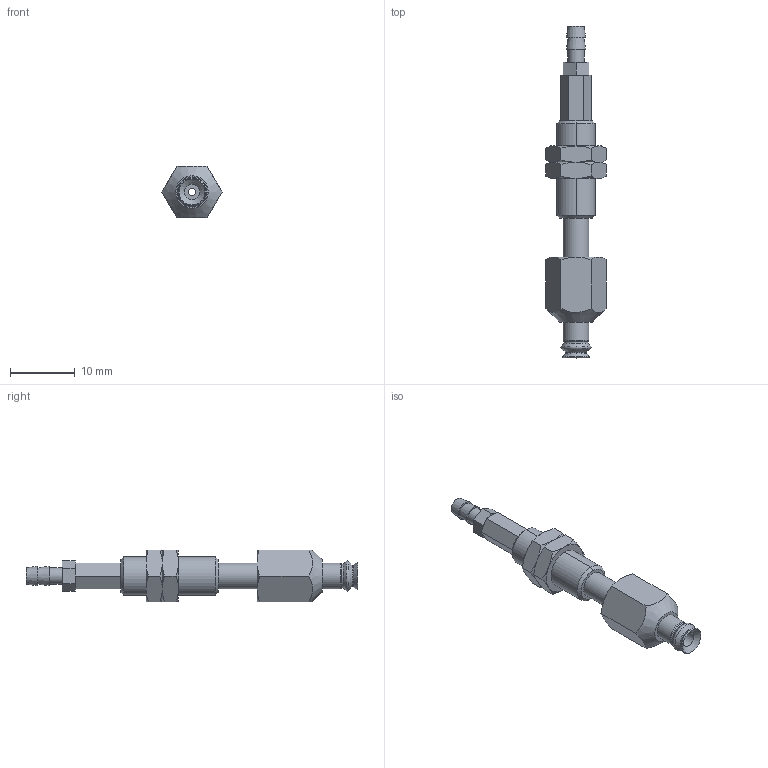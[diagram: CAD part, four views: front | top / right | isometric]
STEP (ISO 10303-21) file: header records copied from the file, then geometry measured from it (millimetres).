
FILE_DESCRIPTION(('STEP AP203'),'1');
FILE_NAME('-T.stp','2025-08-27T07:06:43',(' '),(' '),'Spatial InterOp 3D',' ',' ');
FILE_SCHEMA(('CONFIG_CONTROL_DESIGN'));
Length unit declared in the file: millimetre
Products named in the file (7): BNABPJTS-4-6-※-T; ADAPTER; NAPFTS-2A-6-MBODY; _Nut_1_5A_6_s; _NAPFTS_1_5A_6_FBODY; BPJG-4-※; T (2)
Assembly tree (7 placements, depth 2):
  BNABPJTS-4-6-※-T
    ADAPTER
    NAPFTS-2A-6-MBODY
    _Nut_1_5A_6_s  x2
    _NAPFTS_1_5A_6_FBODY
    BPJG-4-※
    T (2)
Bounding box: 9.24 x 51.1 x 8 mm (x, y, z)
Volume: 1335.6 mm3; surface area: 2053.6 mm2
Topology: 7 solids, 7 shells, 141 faces, 300 edges, 180 vertices
Faces by surface type: plane 57, cone 54, cylinder 21, torus 9
Full cylindrical faces by diameter (mm): 1.2 x3, 2 x2, 2.4 x1, 2.459 x1, 2.5 x1, 3 x3, 4 x2
Entity records: 3214 total; most frequent: CARTESIAN_POINT 581, DIRECTION 494, ORIENTED_EDGE 400, AXIS2_PLACEMENT_3D 213, EDGE_CURVE 200, EDGE_LOOP 168, VERTEX_POINT 138, FACE_OUTER_BOUND 137
